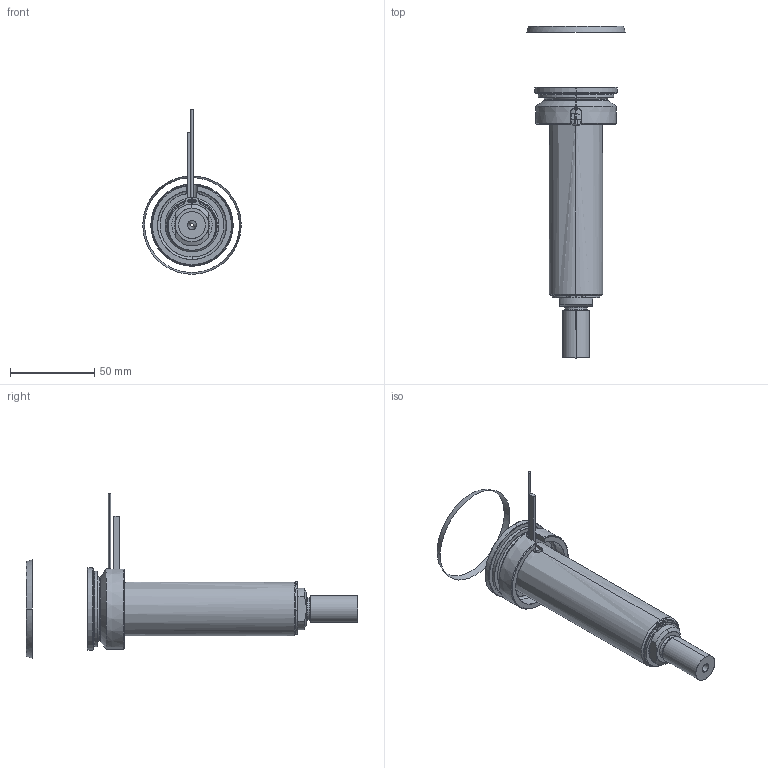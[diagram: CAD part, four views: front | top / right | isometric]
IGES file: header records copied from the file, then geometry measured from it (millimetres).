
Start section: SolidWorks IGES file using analytic representation for surfaces
Global section: file name: C:\Documents and Settings\ws-20\Desktop\TEMPORANEA\UGBE5003-S-A-P-3 [Ød-2.0 P-25 ØC-13].IGS; native system: SolidWorks 2012; preprocessor: SolidWorks 2012; author: ws-20; date: 120306.162249; units: millimetre
Bounding box: 58.57 x 197.44 x 97.91 mm (x, y, z)
Surface area: 53196.6 mm2 (no closed solid volume)
Topology: 0 solids, 0 shells, 111 faces, 2122 edges, 2122 vertices
Faces by surface type: revolution 67, bspline 44
